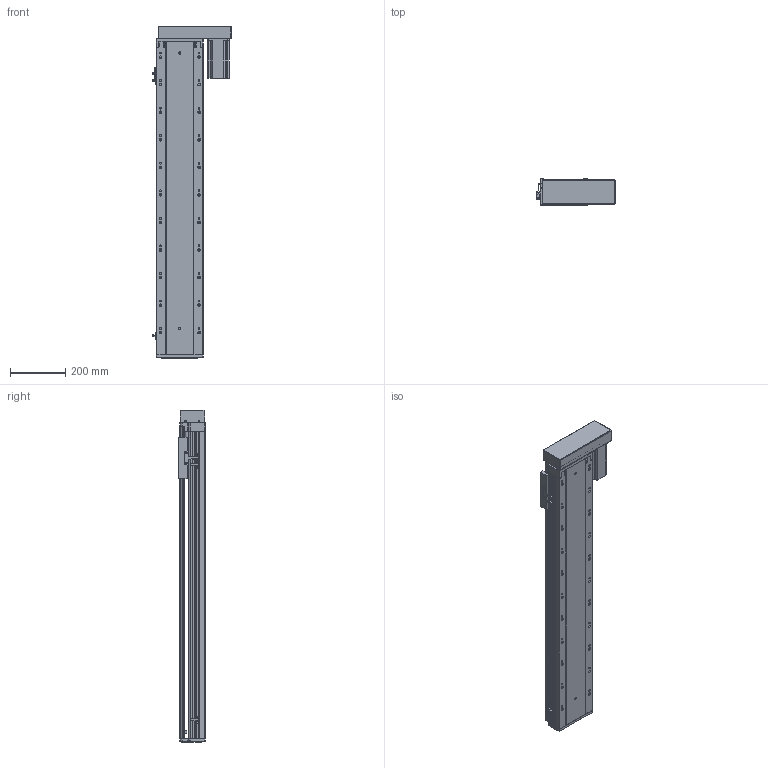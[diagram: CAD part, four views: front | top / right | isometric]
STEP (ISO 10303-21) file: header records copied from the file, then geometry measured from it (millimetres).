
FILE_DESCRIPTION (( 'STEP AP203' ), '1' );
FILE_NAME ('RY170-L2510-300-RK.SLDASM_900.step', '2021-03-12T09:19:52', ( '盈信电脑' ), ( '东莞市道滘镇水果街19号' ), 'SwSTEP 2.0', 'SolidWorks 2012', '' );
FILE_SCHEMA (( 'CONFIG_CONTROL_DESIGN' ));
Length unit declared in the file: millimetre
Products named in the file (14): 覜茼ん672; RY170外置感应片(200共用）; RY170-L2510-300-RK.SLDASM_900; RY170-酘衵殏750W萇儂傷; 怢湛750W萇儂ㄗ80遺ㄘ; RY170-左右折电机安装板750W; 滅袉蝶18-10; RY170转折电机端支撑座(7004); RY170酘衵殏萇儂欶750W; 滅袉蝶18-20; RY170綴裔啣; RY170-300倰第裔啣-RK_900; 改造-RY170铝滑块25丝杆螺母; RY170-300倰第菁釱-RK_900
Assembly tree (15 placements, depth 3):
  RY170-L2510-300-RK.SLDASM_900
    RY170-300倰第菁釱-RK_900
    改造-RY170铝滑块25丝杆螺母
    RY170-300倰第裔啣-RK_900
    RY170綴裔啣
    滅袉蝶18-20
    滅袉蝶18-10
    RY170转折电机端支撑座(7004)
    RY170-酘衵殏750W萇儂傷
      RY170-左右折电机安装板750W
      RY170酘衵殏萇儂欶750W
      怢湛750W萇儂ㄗ80遺ㄘ
    覜茼ん672  x3
    RY170外置感应片(200共用）
Bounding box: 286.2 x 97 x 1205 mm (x, y, z)
Volume: 6774108.2 mm3; surface area: 2108559.7 mm2
Topology: 14 solids, 14 shells, 2287 faces, 6650 edges, 4280 vertices
Faces by surface type: plane 1094, cylinder 996, cone 178, bspline 19
Entity records: 75779 total; most frequent: CARTESIAN_POINT 18967, ORIENTED_EDGE 12036, DIRECTION 10950, EDGE_CURVE 6018, VERTEX_POINT 3960, AXIS2_PLACEMENT_3D 3681, VECTOR 3588, LINE 3588
